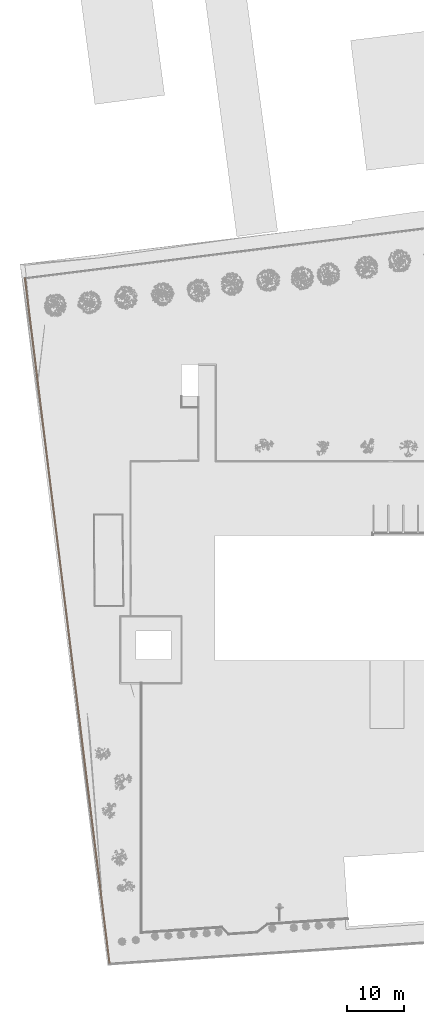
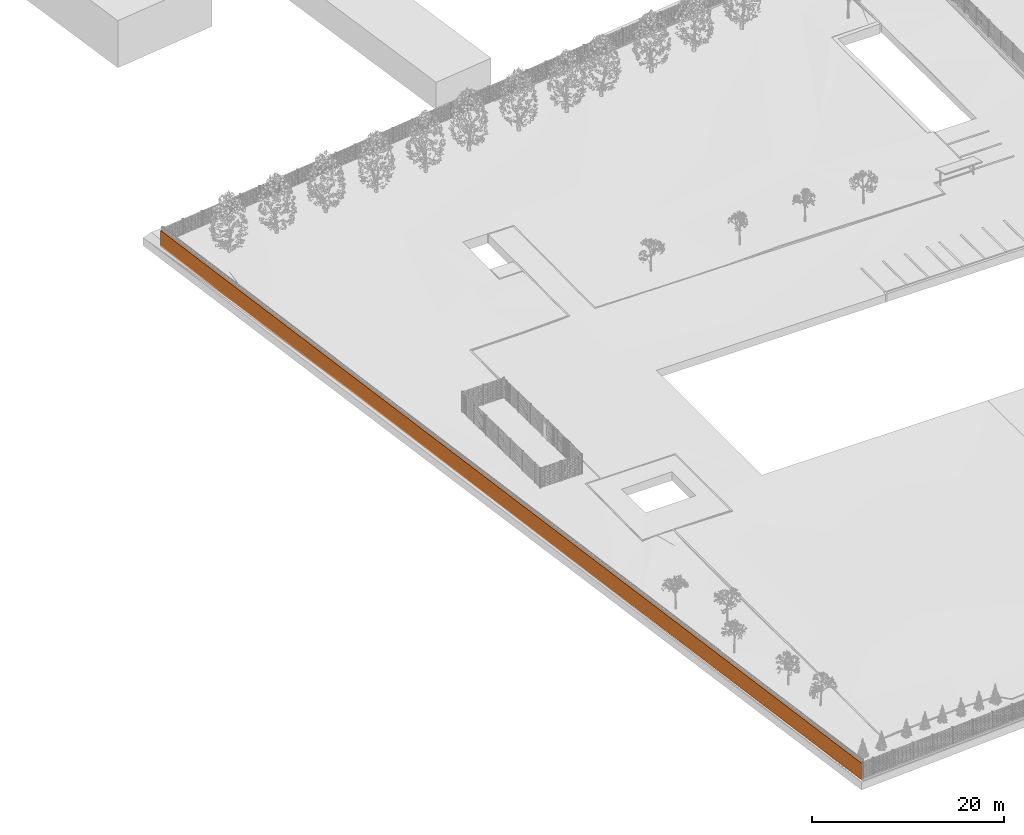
# One storey, part 8 of 1809: 1 proxy.
"""IFC2X3 building model written with IfcOpenShell, lengths in millimetres."""

from ifc_helpers import new_model, entity, si_unit, converted_unit, derived_unit, money_unit, direction, frame, origin_with_axes, place, context, subcontext, project, spatial, polyline, outline, extrude, material, type_object, element, save


model = new_model("IFC2X3")

# Units and contexts
model_context = context("Model", 3, precision=0.01, world=origin_with_axes(), true_north=direction((0.0, 1.0)))
body_context = subcontext(model_context, "Body", "Model", "MODEL_VIEW")
ifc_project = project(units=[si_unit("LENGTHUNIT", "METRE", prefix="MILLI"), si_unit("AREAUNIT", "SQUARE_METRE"), si_unit("VOLUMEUNIT", "CUBIC_METRE"), converted_unit("PLANEANGLEUNIT", "DEGREE", entity("IfcPlaneAngleMeasure", 0.0174532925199), si_unit("PLANEANGLEUNIT", "RADIAN"), dimensions=[0, 0, 0, 0, 0, 0, 0]), si_unit("SOLIDANGLEUNIT", "STERADIAN"), money_unit("EUR"), converted_unit("TIMEUNIT", "Year", entity("IfcTimeMeasure", 31556926.0), si_unit("TIMEUNIT", "SECOND"), dimensions=[0, 0, 1, 0, 0, 0, 0]), si_unit("MASSUNIT", "GRAM", prefix="KILO"), si_unit("THERMODYNAMICTEMPERATUREUNIT", "DEGREE_CELSIUS"), si_unit("LUMINOUSINTENSITYUNIT", "LUMEN"), si_unit("ENERGYUNIT", "JOULE", prefix="MEGA"), derived_unit("THERMALCONDUCTANCEUNIT", [(si_unit("POWERUNIT", "WATT"), 1), (si_unit("LENGTHUNIT", "METRE"), -1), (si_unit("THERMODYNAMICTEMPERATUREUNIT", "KELVIN"), -1)]), derived_unit("SPECIFICHEATCAPACITYUNIT", [(si_unit("ENERGYUNIT", "JOULE"), 1), (si_unit("MASSUNIT", "GRAM", prefix="KILO"), -1), (si_unit("THERMODYNAMICTEMPERATUREUNIT", "KELVIN"), -1)]), derived_unit("MASSDENSITYUNIT", [(si_unit("MASSUNIT", "GRAM", prefix="KILO"), 1), (si_unit("VOLUMEUNIT", "CUBIC_METRE"), -1)])], contexts=[model_context])

# Site, building, storey
site_placement = place(None, origin_with_axes())
site = spatial("IfcSite", under=ifc_project, at=site_placement, Name="Politse- ja Piirivalveameti ning Päästeameti ühishoone", CompositionType="ELEMENT")
building_placement = place(site_placement, origin_with_axes())
building = spatial("IfcBuilding", under=site, at=building_placement, Name="Politse- ja Piirivalveameti ning Päästeameti ühishoone", CompositionType="ELEMENT")
storey_placement = place(building_placement, origin_with_axes())
storey = spatial("IfcBuildingStorey", under=building, at=storey_placement, Name="Esimene korrus", CompositionType="ELEMENT", Elevation=0.0)

# Proxy
ifc_material = material(Name="Betoon")
building_element_proxy_type = type_object("IfcBuildingElementProxyType", Name="Betoon 2100", PredefinedType="NOTDEFINED")
proxy_placement = place(storey_placement, frame((-19207.1937365, -53689.4847212, 2100.0), z_axis=(0.0, 0.0, 1.0), x_axis=(1.0, 0.0, 0.0)))
element("IfcBuildingElementProxy", 1, at=proxy_placement, inside=storey, type_object=building_element_proxy_type, material=ifc_material, Name="PIIRDEAED", context=body_context, shape_type="SweptSolid", body=[
    extrude(outline(polyline([(0.0, 0.0), (248.683489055, 16.8693994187), (-14628.2468903, 120525.317413), (-14876.3442243, 120494.689463), (0.0, 0.0)])), frame((0.0, 0.0, -2100.0), z_axis=(0.0, 0.0, 1.0), x_axis=(1.0, 0.0, 0.0)), (0.0, 0.0, 1.0), 2100.0),
])

save(model, "model.ifc")
